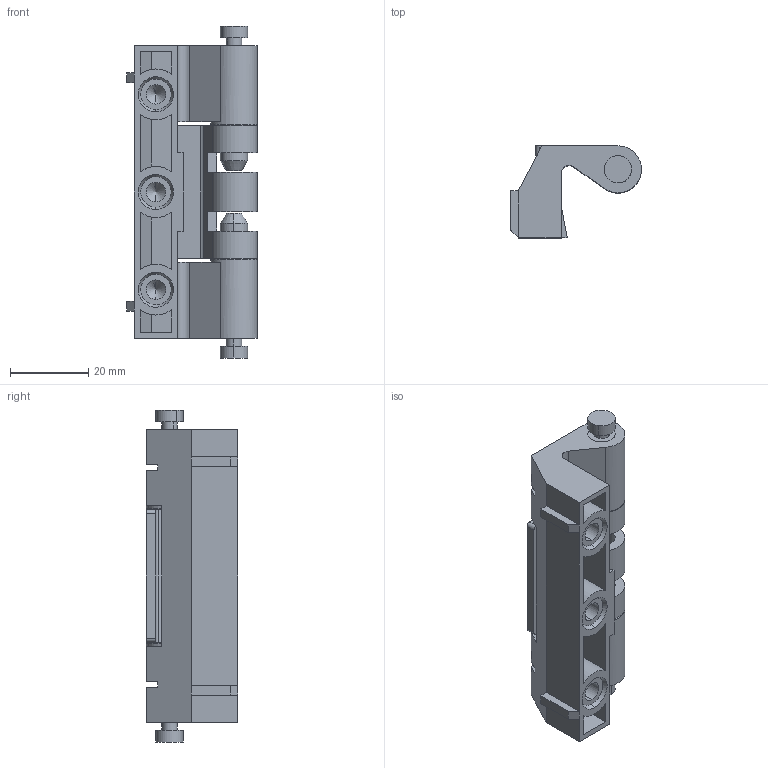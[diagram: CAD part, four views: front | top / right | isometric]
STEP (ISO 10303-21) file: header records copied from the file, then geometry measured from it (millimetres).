
FILE_DESCRIPTION (( 'STEP AP203' ), '1' );
FILE_NAME ('SK2-063-2.STEP', '2019-08-03T00:19:08', ( 'admin' ), ( 'Microsoft' ), 'SwSTEP 2.0', 'SolidWorks 2018', '' );
FILE_SCHEMA (( 'CONFIG_CONTROL_DESIGN' ));
Length unit declared in the file: millimetre
Products named in the file (4): SK2-063-2-F1; SK2-063-2-F2; SK2-063-2-F3; SK2-063-2
Assembly tree (4 placements, depth 2):
  SK2-063-2
    SK2-063-2-F1
    SK2-063-2-F2
    SK2-063-2-F3  x2
Bounding box: 33.5 x 23.5 x 85 mm (x, y, z)
Volume: 21295.6 mm3; surface area: 16614.5 mm2
Topology: 4 solids, 4 shells, 186 faces, 449 edges, 281 vertices
Faces by surface type: plane 103, cylinder 59, cone 24
Entity records: 5259 total; most frequent: DIRECTION 865, CARTESIAN_POINT 845, ORIENTED_EDGE 802, EDGE_CURVE 401, AXIS2_PLACEMENT_3D 299, LINE 267, VECTOR 267, VERTEX_POINT 255
